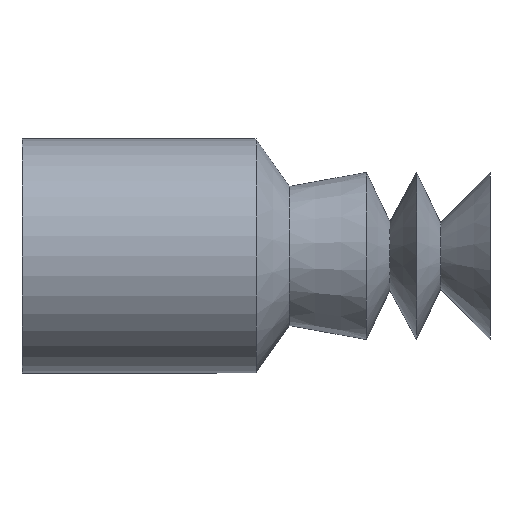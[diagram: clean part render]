
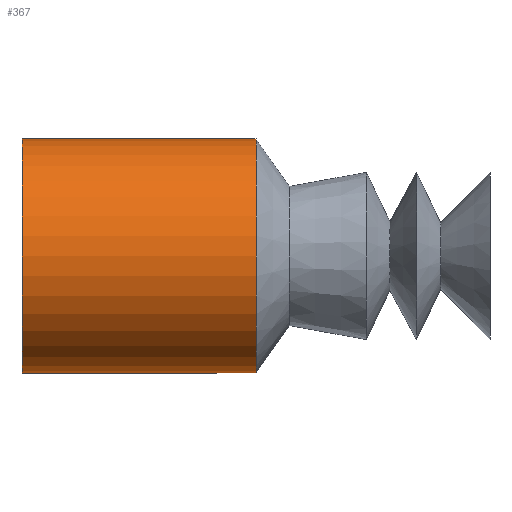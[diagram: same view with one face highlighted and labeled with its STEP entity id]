
A CAD part, left-side view. The second image highlights one B-rep face of the part: STEP entity #367.
In plain terms, the highlighted cylindrical face has radius 3.5 mm (diameter 7 mm), a partial arc.
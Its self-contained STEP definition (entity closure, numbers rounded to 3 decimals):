
#14 = DIRECTION ( 'NONE',  ( 0., 0., -1. ) ) ;
#17 = CYLINDRICAL_SURFACE ( 'NONE', #232, 3.5 ) ;
#18 = AXIS2_PLACEMENT_3D ( 'NONE', #489, #91, #682 ) ;
#21 = EDGE_CURVE ( 'NONE', #542, #753, #84, .T. ) ;
#22 = CARTESIAN_POINT ( 'NONE',  ( 0., 7., 3.5 ) ) ;
#55 = LINE ( 'NONE', #728, #764 ) ;
#84 = CIRCLE ( 'NONE', #493, 3.5 ) ;
#87 = EDGE_CURVE ( 'NONE', #180, #424, #110, .T. ) ;
#91 = DIRECTION ( 'NONE',  ( 0., -1., 0. ) ) ;
#110 = CIRCLE ( 'NONE', #18, 3.5 ) ;
#180 = VERTEX_POINT ( 'NONE', #540 ) ;
#192 = CARTESIAN_POINT ( 'NONE',  ( 0., 0., 0. ) ) ;
#228 = EDGE_LOOP ( 'NONE', ( #270, #569, #566, #505 ) ) ;
#232 = AXIS2_PLACEMENT_3D ( 'NONE', #192, #501, #14 ) ;
#270 = ORIENTED_EDGE ( 'NONE', *, *, #587, .F. ) ;
#310 = CARTESIAN_POINT ( 'NONE',  ( 0., 7., -3.5 ) ) ;
#336 = CARTESIAN_POINT ( 'NONE',  ( 0., 7., 0. ) ) ;
#339 = EDGE_CURVE ( 'NONE', #424, #753, #55, .T. ) ;
#344 = DIRECTION ( 'NONE',  ( 0., -1., 0. ) ) ;
#348 = CARTESIAN_POINT ( 'NONE',  ( 0., 14., -3.5 ) ) ;
#355 = FACE_OUTER_BOUND ( 'NONE', #228, .T. ) ;
#367 = ADVANCED_FACE ( 'NONE', ( #355 ), #17, .T. ) ;
#424 = VERTEX_POINT ( 'NONE', #348 ) ;
#430 = CARTESIAN_POINT ( 'NONE',  ( 0., 0., 3.5 ) ) ;
#489 = CARTESIAN_POINT ( 'NONE',  ( 0., 14., 0. ) ) ;
#493 = AXIS2_PLACEMENT_3D ( 'NONE', #336, #732, #593 ) ;
#501 = DIRECTION ( 'NONE',  ( 0., -1., 0. ) ) ;
#505 = ORIENTED_EDGE ( 'NONE', *, *, #21, .F. ) ;
#540 = CARTESIAN_POINT ( 'NONE',  ( 0., 14., 3.5 ) ) ;
#542 = VERTEX_POINT ( 'NONE', #22 ) ;
#566 = ORIENTED_EDGE ( 'NONE', *, *, #339, .T. ) ;
#569 = ORIENTED_EDGE ( 'NONE', *, *, #87, .T. ) ;
#587 = EDGE_CURVE ( 'NONE', #180, #542, #643, .T. ) ;
#593 = DIRECTION ( 'NONE',  ( 0., 0., -1. ) ) ;
#620 = DIRECTION ( 'NONE',  ( 0., -1., 0. ) ) ;
#643 = LINE ( 'NONE', #430, #651 ) ;
#651 = VECTOR ( 'NONE', #620, 1000. ) ;
#682 = DIRECTION ( 'NONE',  ( 0., 0., -1. ) ) ;
#728 = CARTESIAN_POINT ( 'NONE',  ( 0., 0., -3.5 ) ) ;
#732 = DIRECTION ( 'NONE',  ( 0., -1., 0. ) ) ;
#753 = VERTEX_POINT ( 'NONE', #310 ) ;
#764 = VECTOR ( 'NONE', #344, 1000. ) ;
